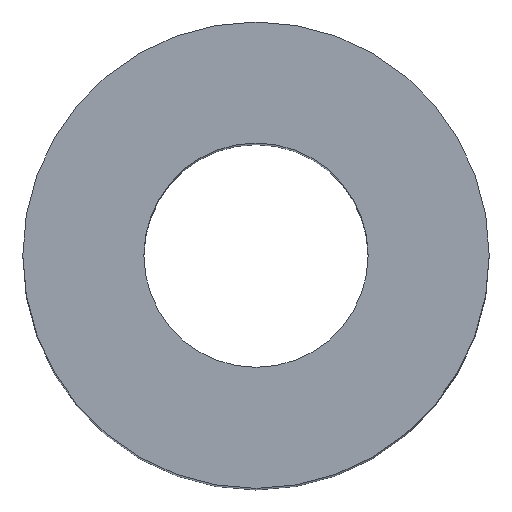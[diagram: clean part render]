
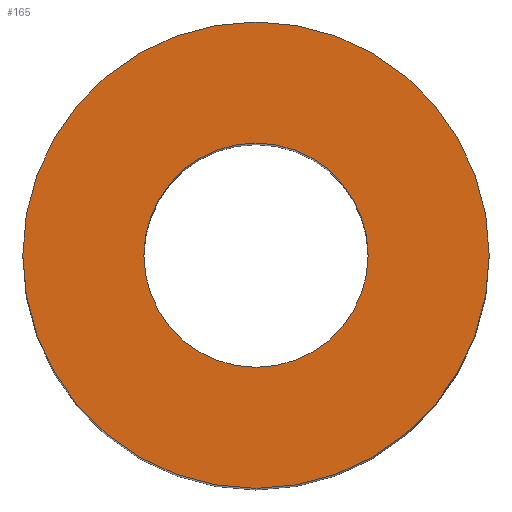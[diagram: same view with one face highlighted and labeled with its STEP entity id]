
A CAD part, top view. The second image highlights one B-rep face of the part: STEP entity #165.
In plain terms, the highlighted planar face has unit normal (0, 0, 1).
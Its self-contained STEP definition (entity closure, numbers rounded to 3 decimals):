
#3 = CIRCLE ( 'NONE', #57, 6.25 ) ;
#6 = EDGE_CURVE ( 'NONE', #113, #79, #26, .T. ) ;
#14 = DIRECTION ( 'NONE',  ( 1., 0., 0. ) ) ;
#17 = ORIENTED_EDGE ( 'NONE', *, *, #151, .T. ) ;
#21 = DIRECTION ( 'NONE',  ( 0., 0., 1. ) ) ;
#22 = CARTESIAN_POINT ( 'NONE',  ( 0., 0., 51. ) ) ;
#26 = CIRCLE ( 'NONE', #77, 13. ) ;
#28 = CARTESIAN_POINT ( 'NONE',  ( 13., 0., 51. ) ) ;
#31 = ORIENTED_EDGE ( 'NONE', *, *, #6, .T. ) ;
#35 = EDGE_LOOP ( 'NONE', ( #17, #31 ) ) ;
#37 = PLANE ( 'NONE',  #130 ) ;
#38 = EDGE_CURVE ( 'NONE', #95, #193, #3, .T. ) ;
#43 = CARTESIAN_POINT ( 'NONE',  ( 0., 0., 51. ) ) ;
#46 = EDGE_LOOP ( 'NONE', ( #152, #132 ) ) ;
#47 = AXIS2_PLACEMENT_3D ( 'NONE', #118, #172, #100 ) ;
#57 = AXIS2_PLACEMENT_3D ( 'NONE', #211, #110, #68 ) ;
#68 = DIRECTION ( 'NONE',  ( 1., 0., 0. ) ) ;
#77 = AXIS2_PLACEMENT_3D ( 'NONE', #22, #21, #14 ) ;
#79 = VERTEX_POINT ( 'NONE', #208 ) ;
#95 = VERTEX_POINT ( 'NONE', #205 ) ;
#100 = DIRECTION ( 'NONE',  ( 1., 0., 0. ) ) ;
#110 = DIRECTION ( 'NONE',  ( 0., 0., 1. ) ) ;
#113 = VERTEX_POINT ( 'NONE', #28 ) ;
#117 = FACE_OUTER_BOUND ( 'NONE', #35, .T. ) ;
#118 = CARTESIAN_POINT ( 'NONE',  ( 0., 0., 51. ) ) ;
#130 = AXIS2_PLACEMENT_3D ( 'NONE', #43, #186, #175 ) ;
#131 = AXIS2_PLACEMENT_3D ( 'NONE', #148, #168, #184 ) ;
#132 = ORIENTED_EDGE ( 'NONE', *, *, #195, .F. ) ;
#134 = FACE_BOUND ( 'NONE', #46, .T. ) ;
#148 = CARTESIAN_POINT ( 'NONE',  ( 0., 0., 51. ) ) ;
#151 = EDGE_CURVE ( 'NONE', #79, #113, #198, .T. ) ;
#152 = ORIENTED_EDGE ( 'NONE', *, *, #38, .F. ) ;
#165 = ADVANCED_FACE ( 'NONE', ( #117, #134 ), #37, .T. ) ;
#168 = DIRECTION ( 'NONE',  ( 0., 0., 1. ) ) ;
#172 = DIRECTION ( 'NONE',  ( 0., 0., 1. ) ) ;
#174 = CIRCLE ( 'NONE', #47, 6.25 ) ;
#175 = DIRECTION ( 'NONE',  ( 1., 0., 0. ) ) ;
#184 = DIRECTION ( 'NONE',  ( 1., 0., 0. ) ) ;
#186 = DIRECTION ( 'NONE',  ( 0., 0., 1. ) ) ;
#193 = VERTEX_POINT ( 'NONE', #194 ) ;
#194 = CARTESIAN_POINT ( 'NONE',  ( 6.25, 0., 51. ) ) ;
#195 = EDGE_CURVE ( 'NONE', #193, #95, #174, .T. ) ;
#198 = CIRCLE ( 'NONE', #131, 13. ) ;
#205 = CARTESIAN_POINT ( 'NONE',  ( -6.25, 0., 51. ) ) ;
#208 = CARTESIAN_POINT ( 'NONE',  ( -13., 0., 51. ) ) ;
#211 = CARTESIAN_POINT ( 'NONE',  ( 0., 0., 51. ) ) ;
